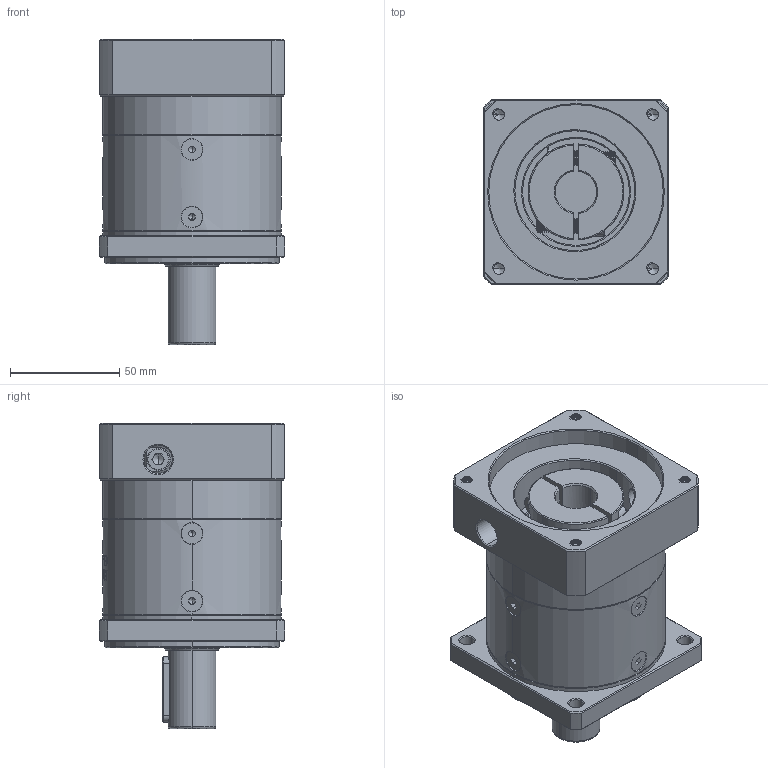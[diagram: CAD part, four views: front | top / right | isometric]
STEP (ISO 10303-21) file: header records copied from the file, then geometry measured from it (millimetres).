
FILE_DESCRIPTION (( 'STEP AP214' ), '1' );
FILE_NAME ('ZF080-D22-L1-P2-19-80-100-M6.step', '2023-08-19T05:31:43', ( '' ), ( '' ), 'SwSTEP 2.0', 'SolidWorks 2016', '' );
FILE_SCHEMA (( 'AUTOMOTIVE_DESIGN' ));
Length unit declared in the file: millimetre
Products named in the file (1): ZF080-D22-L1-P2-19-80-100-M6
Bounding box: 85 x 85 x 140 mm (x, y, z)
Volume: 537177 mm3; surface area: 88972.6 mm2
Topology: 13 solids, 13 shells, 2231 faces, 5834 edges, 3702 vertices
Faces by surface type: plane 1071, bspline 394, cylinder 390, cone 339, torus 37
Entity records: 119085 total; most frequent: CARTESIAN_POINT 44758, ORIENTED_EDGE 11608, DIRECTION 8608, EDGE_CURVE 5804, VERTEX_POINT 3702, VECTOR 3088, LINE 3088, AXIS2_PLACEMENT_3D 2760
